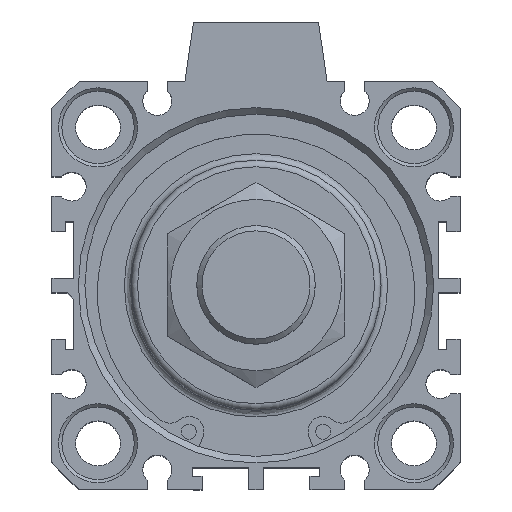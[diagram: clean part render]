
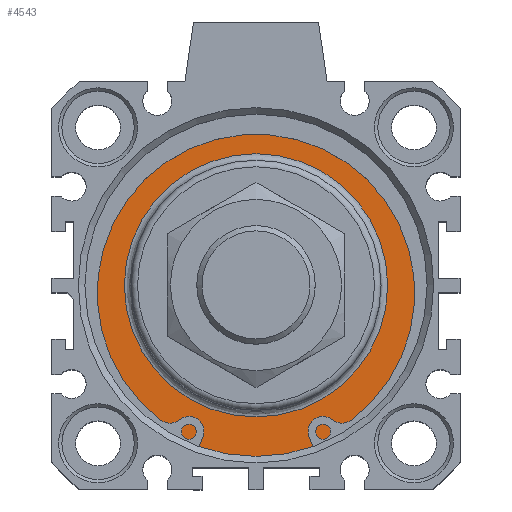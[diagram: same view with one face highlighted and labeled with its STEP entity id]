
A CAD part, top view. The second image highlights one B-rep face of the part: STEP entity #4543.
In plain terms, the highlighted planar face has unit normal (0, 0, 1).
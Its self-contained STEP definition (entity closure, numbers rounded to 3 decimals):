
#4492=CARTESIAN_POINT('',(-0.12,20.837,54.3));
#4493=VERTEX_POINT('',#4492);
#4494=CARTESIAN_POINT('',(-0.12,0.837,54.3));
#4495=DIRECTION('',(0.0,0.0,1.0));
#4496=DIRECTION('',(0.0,-1.0,0.0));
#4497=AXIS2_PLACEMENT_3D('',#4494,#4495,#4496);
#4498=CIRCLE('',#4497,20.0);
#4499=EDGE_CURVE('',#4493,#4493,#4498,.T.);
#4524=CARTESIAN_POINT('',(-0.12,23.337,54.3));
#4525=DIRECTION('',(0.0,0.0,1.0));
#4526=DIRECTION('',(1.0,0.0,0.0));
#4527=AXIS2_PLACEMENT_3D('',#4524,#4525,#4526);
#4528=PLANE('',#4527);
#4529=CARTESIAN_POINT('',(-0.12,26.837,54.3));
#4530=VERTEX_POINT('',#4529);
#4531=CARTESIAN_POINT('',(-0.12,0.837,54.3));
#4532=DIRECTION('',(0.0,0.0,-1.0));
#4533=DIRECTION('',(0.0,1.0,0.0));
#4534=AXIS2_PLACEMENT_3D('',#4531,#4532,#4533);
#4535=CIRCLE('',#4534,26.);
#4536=EDGE_CURVE('',#4530,#4530,#4535,.T.);
#4537=ORIENTED_EDGE('',*,*,#4536,.F.);
#4538=EDGE_LOOP('',(#4537));
#4539=FACE_OUTER_BOUND('',#4538,.T.);
#4540=ORIENTED_EDGE('',*,*,#4499,.F.);
#4541=EDGE_LOOP('',(#4540));
#4542=FACE_BOUND('',#4541,.T.);
#4543=ADVANCED_FACE('',(#4539,#4542),#4528,.T.);
